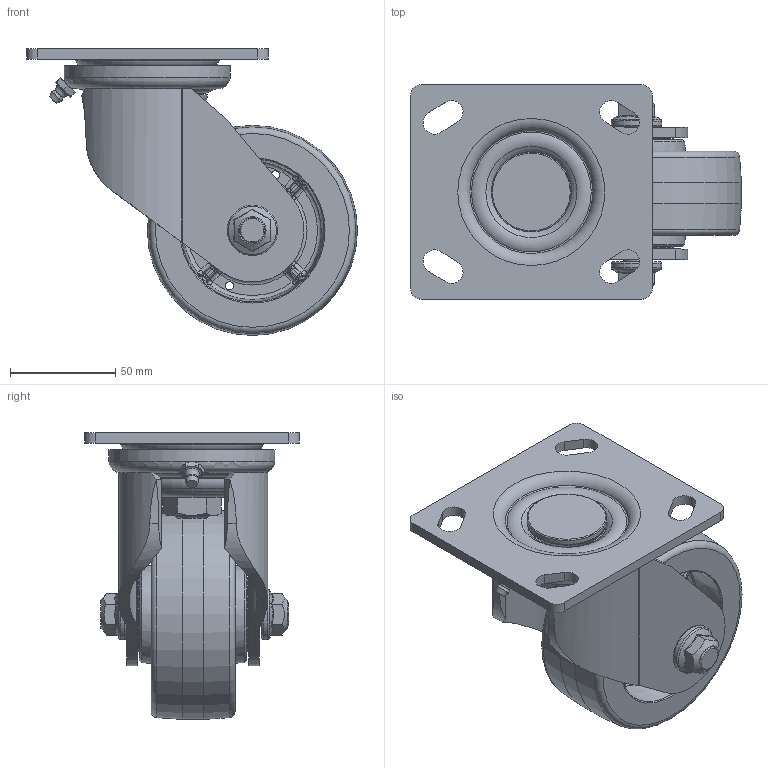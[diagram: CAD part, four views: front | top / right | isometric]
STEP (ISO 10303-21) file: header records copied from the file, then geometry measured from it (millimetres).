
FILE_DESCRIPTION((''),'2;1');
FILE_NAME('C:\Documents and Settings\Administrator\바탕 화면\3D STEP\PM-SERIES\PM-100A-SF\PM-100A-SF.stp','2010-12-27T15:05:18',('Administrator'),(''),'Autodesk Inventor 2009','Autodesk Inventor 2009','');
FILE_SCHEMA(('AUTOMOTIVE_DESIGN { 1 0 10303 214 1 1 1 1 }'));
Length unit declared in the file: millimetre
Products named in the file (1): PM-100A-SF
Bounding box: 157.5 x 102 x 136.53 mm (x, y, z)
Volume: 314737.2 mm3; surface area: 137862.1 mm2
Topology: 7 solids, 30 shells, 668 faces, 1648 edges, 984 vertices
Faces by surface type: bspline 296, plane 138, cylinder 106, cone 55, sphere 42, torus 31
Full cylindrical faces by diameter (mm): 4 x2, 6 x1, 12 x1, 15 x2, 15.2 x2, 16 x2, 18 x2, 21.5 x1, 24 x2, 30.5 x2, 35 x2, 35.18 x2, 38 x1, 41.192 x1, 61.087 x1, 69 x1, 79 x1, 100 x1
Entity records: 34693 total; most frequent: CARTESIAN_POINT 20836, ORIENTED_EDGE 2924, DIRECTION 2732, EDGE_CURVE 1462, AXIS2_PLACEMENT_3D 1243, VERTEX_POINT 913, CIRCLE 838, EDGE_LOOP 831
